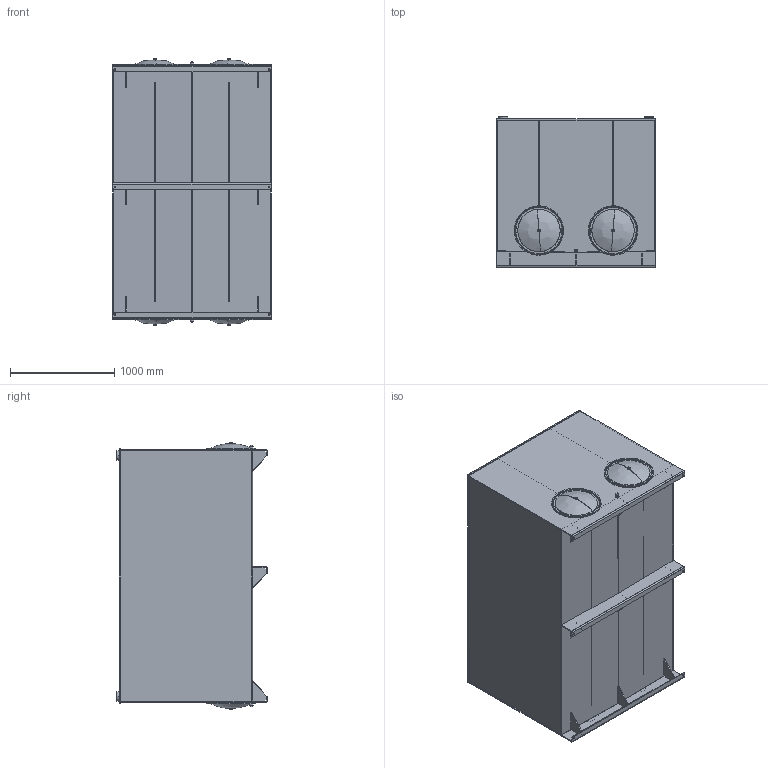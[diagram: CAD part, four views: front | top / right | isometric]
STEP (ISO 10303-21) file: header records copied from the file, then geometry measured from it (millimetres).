
FILE_DESCRIPTION (( 'STEP AP214' ), '1' );
FILE_NAME ('TJ-1000.STEP', '2026-04-22T13:52:18', ( '' ), ( '' ), 'SwSTEP 2.0', 'SolidWorks 2026', '' );
FILE_SCHEMA (( 'AUTOMOTIVE_DESIGN' ));
Length unit declared in the file: inch
Products named in the file (19): TJ-1000-EA; 18.00 END COVER; 0.625 - 11 BAFFLE NUT; TJ-1000-GST-2; TJ-1000-BDYA; CRUSH WASHER; TJ-1000-BDYB; 0.750 NPT PLUG; TL-EC-18; FILLER RISER; TJ-1000-GST-1; TJ-1000-LD; 18.00 GASKET; TJ-1000-EB; 0.625 - 11 HEX BOLT; TJ-1000; 0.750 NPT HALF COUPLING 3000#; TJ-1000-BFL; TJ-1000-FS
Assembly tree (33 placements, depth 3):
  TJ-1000
    TJ-1000-BDYB  x2
    TJ-1000-BDYA
    TJ-1000-EA
    TJ-1000-EB
    TJ-1000-BFL  x2
    TL-EC-18  x4
      18.00 END COVER
      18.00 GASKET
      CRUSH WASHER
      0.625 - 11 HEX BOLT
      0.625 - 11 BAFFLE NUT
    TJ-1000-LD
    TJ-1000-FS
    TJ-1000-GST-1  x6
    TJ-1000-GST-2  x3
    0.750 NPT HALF COUPLING 3000#  x2
    0.750 NPT PLUG  x2
    FILLER RISER  x2
Bounding box: 1524 x 1447.8 x 2560.98 mm (x, y, z)
Volume: 170258898.7 mm3; surface area: 50370202.1 mm2
Topology: 44 solids, 44 shells, 512 faces, 1186 edges, 776 vertices
Faces by surface type: plane 295, cylinder 185, bspline 16, cone 12, torus 4
Entity records: 7644 total; most frequent: DIRECTION 1281, CARTESIAN_POINT 1226, ORIENTED_EDGE 1098, EDGE_CURVE 549, AXIS2_PLACEMENT_3D 469, VERTEX_POINT 354, VECTOR 343, LINE 343
